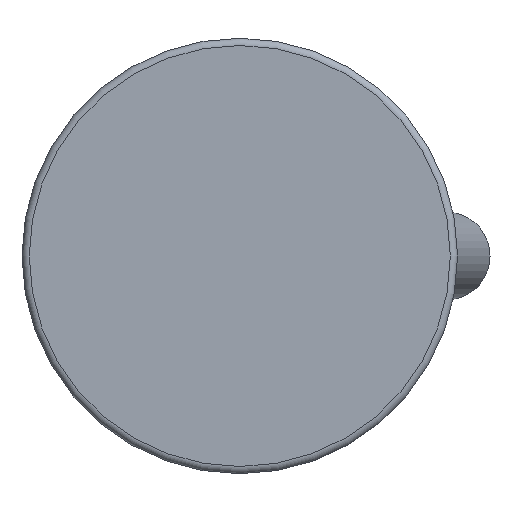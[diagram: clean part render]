
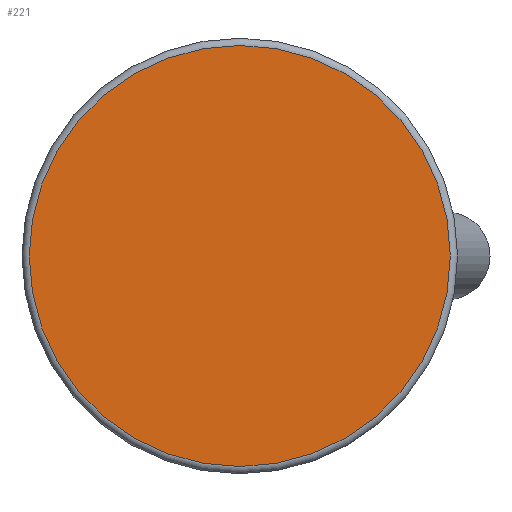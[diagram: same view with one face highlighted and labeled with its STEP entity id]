
A CAD part, front view. The second image highlights one B-rep face of the part: STEP entity #221.
In plain terms, the highlighted planar face has unit normal (0, -1, 0).
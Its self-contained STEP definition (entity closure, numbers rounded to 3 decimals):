
#221 = ADVANCED_FACE( '', ( #426 ), #427, .F. );
#426 = FACE_OUTER_BOUND( '', #626, .T. );
#427 = PLANE( '', #627 );
#626 = EDGE_LOOP( '', ( #994 ) );
#627 = AXIS2_PLACEMENT_3D( '', #995, #996, #997 );
#994 = ORIENTED_EDGE( '', *, *, #1161, .T. );
#995 = CARTESIAN_POINT( '', ( 29., 0., 0. ) );
#996 = DIRECTION( '', ( 0., 1., 0. ) );
#997 = DIRECTION( '', ( 0., 0., 1. ) );
#1161 = EDGE_CURVE( '', #1354, #1354, #1355, .T. );
#1354 = VERTEX_POINT( '', #1660 );
#1355 = CIRCLE( '', #1661, 29. );
#1660 = CARTESIAN_POINT( '', ( 0., 0., -29. ) );
#1661 = AXIS2_PLACEMENT_3D( '', #2062, #2063, #2064 );
#2062 = CARTESIAN_POINT( '', ( 0., 0., 0. ) );
#2063 = DIRECTION( '', ( 0., -1., 0. ) );
#2064 = DIRECTION( '', ( 0., 0., -1. ) );
